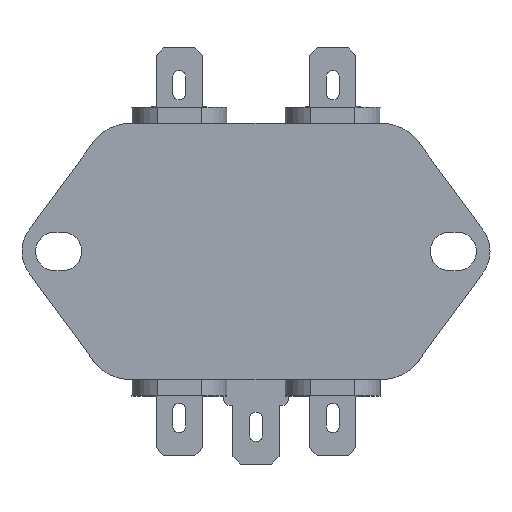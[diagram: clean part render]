
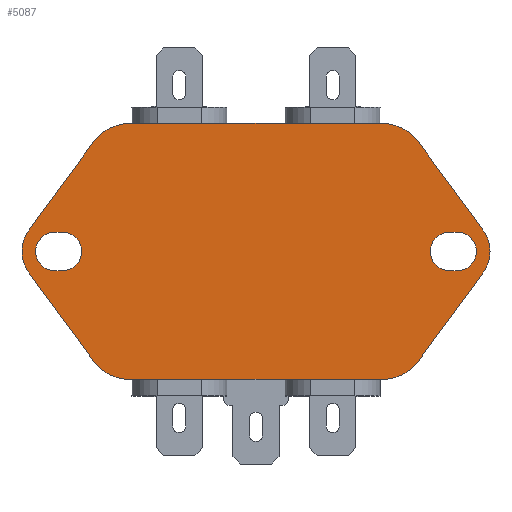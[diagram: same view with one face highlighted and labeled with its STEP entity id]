
A CAD part, top view. The second image highlights one B-rep face of the part: STEP entity #5087.
In plain terms, the highlighted planar face has unit normal (0, 0, 1).
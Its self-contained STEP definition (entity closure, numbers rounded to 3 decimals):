
#3681=CARTESIAN_POINT('',(29.374,1.592,24.3));
#3682=VERTEX_POINT('',#3681);
#3683=CARTESIAN_POINT('',(29.374,6.892,24.3));
#3684=VERTEX_POINT('',#3683);
#3685=CARTESIAN_POINT('',(29.374,4.242,24.3));
#3686=DIRECTION('',(0.0,0.0,1.));
#3687=DIRECTION('',(0.707,-0.707,0.0));
#3688=AXIS2_PLACEMENT_3D('',#3685,#3686,#3687);
#3689=CIRCLE('',#3688,2.65);
#3690=EDGE_CURVE('',#3682,#3684,#3689,.T.);
#3724=CARTESIAN_POINT('',(28.374,6.892,24.3));
#3725=VERTEX_POINT('',#3724);
#3726=CARTESIAN_POINT('',(28.374,6.892,24.3));
#3727=DIRECTION('',(1.0,0.0,0.0));
#3728=VECTOR('',#3727,1.);
#3729=LINE('',#3726,#3728);
#3730=EDGE_CURVE('',#3725,#3684,#3729,.T.);
#3754=CARTESIAN_POINT('',(28.374,1.592,24.3));
#3755=VERTEX_POINT('',#3754);
#3756=CARTESIAN_POINT('',(28.374,4.242,24.3));
#3757=DIRECTION('',(0.0,0.0,1.0));
#3758=DIRECTION('',(-0.707,0.707,0.0));
#3759=AXIS2_PLACEMENT_3D('',#3756,#3757,#3758);
#3760=CIRCLE('',#3759,2.65);
#3761=EDGE_CURVE('',#3725,#3755,#3760,.T.);
#3795=CARTESIAN_POINT('',(29.374,1.592,24.3));
#3796=DIRECTION('',(-1.0,0.0,0.0));
#3797=VECTOR('',#3796,1.);
#3798=LINE('',#3795,#3797);
#3799=EDGE_CURVE('',#3682,#3755,#3798,.T.);
#3811=CARTESIAN_POINT('',(-24.626,1.592,24.3));
#3812=VERTEX_POINT('',#3811);
#3827=CARTESIAN_POINT('',(-25.626,1.592,24.3));
#3828=VERTEX_POINT('',#3827);
#3835=CARTESIAN_POINT('',(-24.626,1.592,24.3));
#3836=DIRECTION('',(-1.0,0.0,0.0));
#3837=VECTOR('',#3836,1.);
#3838=LINE('',#3835,#3837);
#3839=EDGE_CURVE('',#3812,#3828,#3838,.T.);
#3849=CARTESIAN_POINT('',(-25.626,6.892,24.3));
#3850=VERTEX_POINT('',#3849);
#3851=CARTESIAN_POINT('',(-25.626,4.242,24.3));
#3852=DIRECTION('',(0.0,0.0,1.));
#3853=DIRECTION('',(-0.707,0.707,0.0));
#3854=AXIS2_PLACEMENT_3D('',#3851,#3852,#3853);
#3855=CIRCLE('',#3854,2.65);
#3856=EDGE_CURVE('',#3850,#3828,#3855,.T.);
#3882=CARTESIAN_POINT('',(-24.626,6.892,24.3));
#3883=VERTEX_POINT('',#3882);
#3884=CARTESIAN_POINT('',(-24.626,4.242,24.3));
#3885=DIRECTION('',(0.0,0.0,1.0));
#3886=DIRECTION('',(0.707,-0.707,0.0));
#3887=AXIS2_PLACEMENT_3D('',#3884,#3885,#3886);
#3888=CIRCLE('',#3887,2.65);
#3889=EDGE_CURVE('',#3812,#3883,#3888,.T.);
#3923=CARTESIAN_POINT('',(-25.626,6.892,24.3));
#3924=DIRECTION('',(1.0,0.0,0.0));
#3925=VECTOR('',#3924,1.);
#3926=LINE('',#3923,#3925);
#3927=EDGE_CURVE('',#3850,#3883,#3926,.T.);
#3947=CARTESIAN_POINT('',(-20.335,-10.745,24.3));
#3948=VERTEX_POINT('',#3947);
#3955=CARTESIAN_POINT('',(-29.158,1.285,24.3));
#3956=VERTEX_POINT('',#3955);
#3957=CARTESIAN_POINT('',(-29.158,1.285,24.3));
#3958=DIRECTION('',(0.591,-0.806,0.0));
#3959=VECTOR('',#3958,14.919);
#3960=LINE('',#3957,#3959);
#3961=EDGE_CURVE('',#3956,#3948,#3960,.T.);
#3986=CARTESIAN_POINT('',(-15.376,-13.258,24.3));
#3987=VERTEX_POINT('',#3986);
#3994=CARTESIAN_POINT('',(-15.376,-7.108,24.3));
#3995=DIRECTION('',(0.0,0.0,1.));
#3996=DIRECTION('',(-0.806,-0.591,0.0));
#3997=AXIS2_PLACEMENT_3D('',#3994,#3995,#3996);
#3998=CIRCLE('',#3997,6.15);
#3999=EDGE_CURVE('',#3948,#3987,#3998,.T.);
#4018=CARTESIAN_POINT('',(19.124,-13.258,24.3));
#4019=VERTEX_POINT('',#4018);
#4026=CARTESIAN_POINT('',(-15.376,-13.258,24.3));
#4027=DIRECTION('',(1.0,0.0,0.0));
#4028=VECTOR('',#4027,34.5);
#4029=LINE('',#4026,#4028);
#4030=EDGE_CURVE('',#3987,#4019,#4029,.T.);
#4050=CARTESIAN_POINT('',(24.083,-10.745,24.3));
#4051=VERTEX_POINT('',#4050);
#4058=CARTESIAN_POINT('',(19.124,-7.108,24.3));
#4059=DIRECTION('',(0.0,0.0,1.0));
#4060=DIRECTION('',(0.0,-1.0,0.0));
#4061=AXIS2_PLACEMENT_3D('',#4058,#4059,#4060);
#4062=CIRCLE('',#4061,6.15);
#4063=EDGE_CURVE('',#4019,#4051,#4062,.T.);
#4082=CARTESIAN_POINT('',(32.906,1.285,24.3));
#4083=VERTEX_POINT('',#4082);
#4090=CARTESIAN_POINT('',(24.083,-10.745,24.3));
#4091=DIRECTION('',(0.591,0.806,0.0));
#4092=VECTOR('',#4091,14.919);
#4093=LINE('',#4090,#4092);
#4094=EDGE_CURVE('',#4051,#4083,#4093,.T.);
#4115=CARTESIAN_POINT('',(24.083,19.229,24.3));
#4116=VERTEX_POINT('',#4115);
#4123=CARTESIAN_POINT('',(32.906,7.199,24.3));
#4124=VERTEX_POINT('',#4123);
#4125=CARTESIAN_POINT('',(32.906,7.199,24.3));
#4126=DIRECTION('',(-0.591,0.806,0.0));
#4127=VECTOR('',#4126,14.919);
#4128=LINE('',#4125,#4127);
#4129=EDGE_CURVE('',#4124,#4116,#4128,.T.);
#4154=CARTESIAN_POINT('',(19.124,21.742,24.3));
#4155=VERTEX_POINT('',#4154);
#4162=CARTESIAN_POINT('',(19.124,15.592,24.3));
#4163=DIRECTION('',(0.0,0.0,1.));
#4164=DIRECTION('',(0.806,0.591,0.0));
#4165=AXIS2_PLACEMENT_3D('',#4162,#4163,#4164);
#4166=CIRCLE('',#4165,6.15);
#4167=EDGE_CURVE('',#4116,#4155,#4166,.T.);
#4186=CARTESIAN_POINT('',(-15.376,21.742,24.3));
#4187=VERTEX_POINT('',#4186);
#4194=CARTESIAN_POINT('',(19.124,21.742,24.3));
#4195=DIRECTION('',(-1.0,0.0,0.0));
#4196=VECTOR('',#4195,34.5);
#4197=LINE('',#4194,#4196);
#4198=EDGE_CURVE('',#4155,#4187,#4197,.T.);
#4218=CARTESIAN_POINT('',(-20.335,19.229,24.3));
#4219=VERTEX_POINT('',#4218);
#4226=CARTESIAN_POINT('',(-15.376,15.592,24.3));
#4227=DIRECTION('',(0.0,0.0,1.0));
#4228=DIRECTION('',(0.0,1.0,0.0));
#4229=AXIS2_PLACEMENT_3D('',#4226,#4227,#4228);
#4230=CIRCLE('',#4229,6.15);
#4231=EDGE_CURVE('',#4187,#4219,#4230,.T.);
#4250=CARTESIAN_POINT('',(-29.158,7.199,24.3));
#4251=VERTEX_POINT('',#4250);
#4258=CARTESIAN_POINT('',(-20.335,19.229,24.3));
#4259=DIRECTION('',(-0.591,-0.806,0.0));
#4260=VECTOR('',#4259,14.919);
#4261=LINE('',#4258,#4260);
#4262=EDGE_CURVE('',#4219,#4251,#4261,.T.);
#4274=CARTESIAN_POINT('',(-25.126,4.242,24.3));
#4275=DIRECTION('',(0.0,0.0,1.0));
#4276=DIRECTION('',(1.0,0.0,0.0));
#4277=AXIS2_PLACEMENT_3D('',#4274,#4275,#4276);
#4278=CIRCLE('',#4277,5.0);
#4279=EDGE_CURVE('',#4251,#3956,#4278,.T.);
#4298=CARTESIAN_POINT('',(28.874,4.242,24.3));
#4299=DIRECTION('',(0.0,0.0,1.0));
#4300=DIRECTION('',(1.0,0.0,0.0));
#4301=AXIS2_PLACEMENT_3D('',#4298,#4299,#4300);
#4302=CIRCLE('',#4301,5.0);
#4303=EDGE_CURVE('',#4083,#4124,#4302,.T.);
#5056=CARTESIAN_POINT('',(1.874,4.242,24.3));
#5057=DIRECTION('',(0.0,0.0,1.0));
#5058=DIRECTION('',(1.0,0.0,0.0));
#5059=AXIS2_PLACEMENT_3D('',#5056,#5057,#5058);
#5060=PLANE('',#5059);
#5061=ORIENTED_EDGE('',*,*,#4262,.T.);
#5062=ORIENTED_EDGE('',*,*,#4279,.T.);
#5063=ORIENTED_EDGE('',*,*,#3961,.T.);
#5064=ORIENTED_EDGE('',*,*,#3999,.T.);
#5065=ORIENTED_EDGE('',*,*,#4030,.T.);
#5066=ORIENTED_EDGE('',*,*,#4063,.T.);
#5067=ORIENTED_EDGE('',*,*,#4094,.T.);
#5068=ORIENTED_EDGE('',*,*,#4303,.T.);
#5069=ORIENTED_EDGE('',*,*,#4129,.T.);
#5070=ORIENTED_EDGE('',*,*,#4167,.T.);
#5071=ORIENTED_EDGE('',*,*,#4198,.T.);
#5072=ORIENTED_EDGE('',*,*,#4231,.T.);
#5073=EDGE_LOOP('',(#5061,#5062,#5063,#5064,#5065,#5066,#5067,#5068,#5069,#5070,#5071,#5072));
#5074=FACE_OUTER_BOUND('',#5073,.T.);
#5075=ORIENTED_EDGE('',*,*,#3889,.F.);
#5076=ORIENTED_EDGE('',*,*,#3839,.T.);
#5077=ORIENTED_EDGE('',*,*,#3856,.F.);
#5078=ORIENTED_EDGE('',*,*,#3927,.T.);
#5079=EDGE_LOOP('',(#5075,#5076,#5077,#5078));
#5080=FACE_BOUND('',#5079,.T.);
#5081=ORIENTED_EDGE('',*,*,#3690,.F.);
#5082=ORIENTED_EDGE('',*,*,#3799,.T.);
#5083=ORIENTED_EDGE('',*,*,#3761,.F.);
#5084=ORIENTED_EDGE('',*,*,#3730,.T.);
#5085=EDGE_LOOP('',(#5081,#5082,#5083,#5084));
#5086=FACE_BOUND('',#5085,.T.);
#5087=ADVANCED_FACE('',(#5074,#5080,#5086),#5060,.T.);
